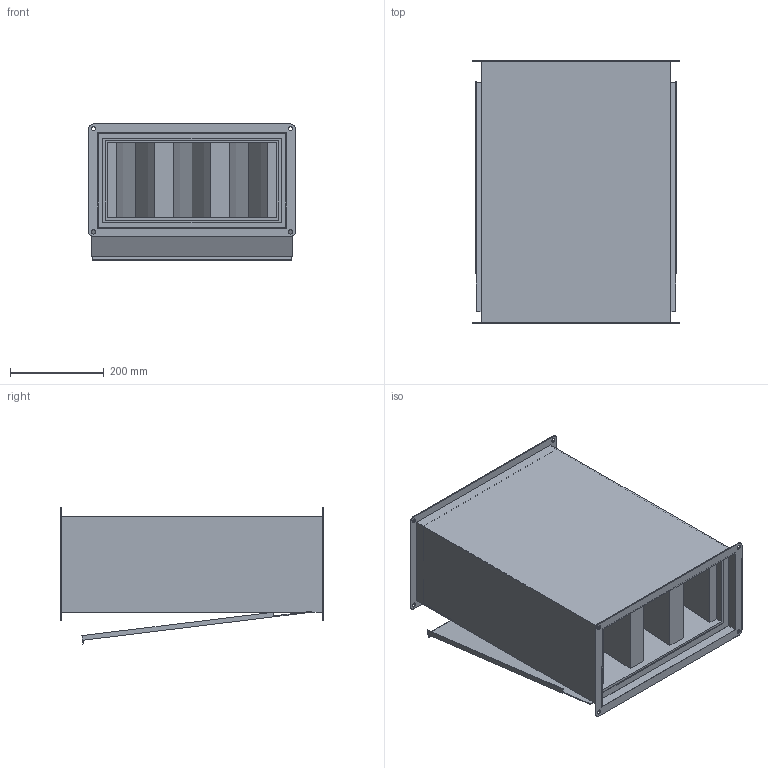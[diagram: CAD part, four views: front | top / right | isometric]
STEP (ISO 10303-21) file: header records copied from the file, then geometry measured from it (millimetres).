
FILE_DESCRIPTION(/* description */ (''),/* implementation_level */ '2;1');
FILE_NAME(/* name */ 'Z:\Output\KLF_40-20_F7-08644-003.stp',/* time_stamp */ '2020-09-28T09:39:59+02:00',/* author */ ('Engineering1'),/* organization */ (''),/* preprocessor_version */ 'ST-DEVELOPER v17.2',/* originating_system */ 'Autodesk Inventor 2019',/* authorisation */ '');
FILE_SCHEMA (('AUTOMOTIVE_DESIGN { 1 0 10303 214 3 1 1 }'));
Length unit declared in the file: millimetre
Products named in the file (1): VS-1
Bounding box: 440 x 560 x 289.9 mm (x, y, z)
Volume: 9547932.5 mm3; surface area: 3639002 mm2
Topology: 1 solids, 1 shells, 115 faces, 314 edges, 208 vertices
Faces by surface type: plane 87, cylinder 28
Full cylindrical faces by diameter (mm): 9 x8
Entity records: 3697 total; most frequent: CARTESIAN_POINT 638, ORIENTED_EDGE 628, DIRECTION 606, EDGE_CURVE 314, LINE 254, VECTOR 254, VERTEX_POINT 208, AXIS2_PLACEMENT_3D 176
